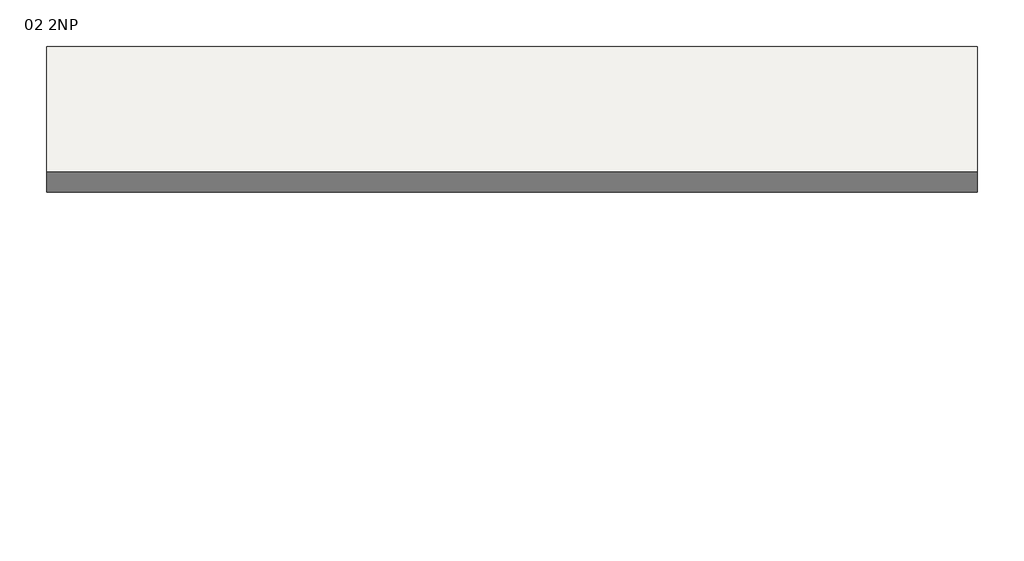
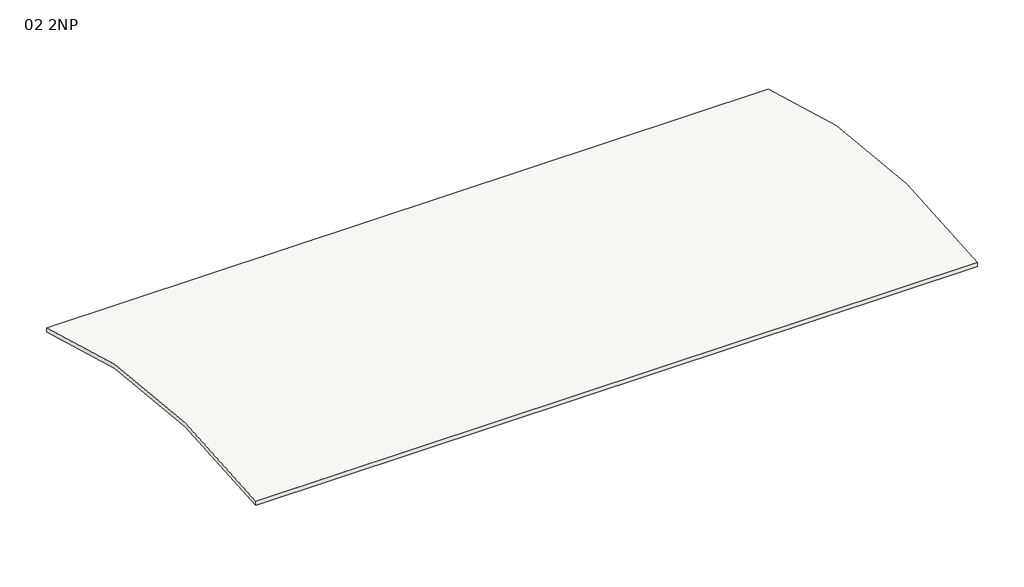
# One storey: 1 roof.
"""IFC4 building model written with IfcOpenShell, lengths in millimetres."""

import ifcopenshell
import ifcopenshell.guid

model = None  # the IFC model being written
_history = None  # IfcOwnerHistory: only IFC2X3 demands one
_inside = {}  # id of a spatial element -> (the spatial element, [elements in it])
_under = {}  # id of a project, library or spatial element -> (it, [spatial elements below it])
_declared = {}  # id of a project -> (the project, [libraries it declares])
_typed = {}  # id of a type object -> (the type object, [elements of that type])
_made_of = {}  # id of a material, layer set ... -> (it, [elements and type objects made of it])


def new_model(schema):
    """Start an empty IFC model of exactly this schema.

    Asked for "IFC4X3", IfcOpenShell would pick the latest addendum, in which some entities
    have other attributes; the version numbers below select the first issue.
    IFC2X3 requires an IfcOwnerHistory on every rooted entity: one is made here for all.
    """
    global model, _history
    if schema == "IFC4X3":
        model = ifcopenshell.file(schema_version=(4, 3, 0, 0))
    else:
        model = ifcopenshell.file(schema=schema)
    _inside.clear()
    _under.clear()
    _declared.clear()
    _typed.clear()
    _made_of.clear()
    _history = None
    if model.schema == "IFC2X3":
        org = make("IfcOrganization", Name="unknown")
        user = make(
            "IfcPersonAndOrganization",
            ThePerson=make("IfcPerson", FamilyName="unknown"),
            TheOrganization=org,
        )
        app = make(
            "IfcApplication",
            ApplicationDeveloper=org,
            Version="unknown",
            ApplicationFullName="unknown",
            ApplicationIdentifier="unknown",
        )
        _history = make(
            "IfcOwnerHistory",
            OwningUser=user,
            OwningApplication=app,
            ChangeAction="ADDED",
            CreationDate=0,
        )
    return model


def make(cls, **values):
    """One entity of the class cls with the attributes given. An attribute that is None is left unset."""
    return model.create_entity(
        cls, **{name: value for name, value in values.items() if value is not None}
    )


def rooted(cls, **values):
    """An entity with a GlobalId (a new one), such as an element, a storey or a relation."""
    return make(cls, GlobalId=ifcopenshell.guid.new(), OwnerHistory=_history, **values)


def si_unit(unit_type, name, prefix=None):
    """IfcSIUnit, for example si_unit("LENGTHUNIT", "METRE", prefix="MILLI")."""
    return make("IfcSIUnit", UnitType=unit_type, Prefix=prefix, Name=name)


def assignment(units):
    """IfcUnitAssignment: the units of a project."""
    return None if units is None else make("IfcUnitAssignment", Units=units)


def point(xyz):
    """IfcCartesianPoint."""
    return None if xyz is None else make("IfcCartesianPoint", Coordinates=xyz)


def direction(xyz):
    """IfcDirection."""
    return None if xyz is None else make("IfcDirection", DirectionRatios=xyz)


def frame(location, z_axis=None, x_axis=None):
    """IfcAxis2Placement3D, a coordinate frame: its origin and axes. An axis left out is left unset."""
    return make(
        "IfcAxis2Placement3D",
        Location=point(location),
        Axis=direction(z_axis),
        RefDirection=direction(x_axis),
    )


def frame_2d(location, x_axis=None):
    """IfcAxis2Placement2D, a coordinate frame in the plane: its origin and x axis."""
    return make(
        "IfcAxis2Placement2D", Location=point(location), RefDirection=direction(x_axis)
    )


def origin():
    """The frame at (0, 0, 0) with its axes left unset."""
    return frame((0.0, 0.0, 0.0))


def place(relative_to, where):
    """IfcLocalPlacement: puts the frame where relative to a parent placement (None: the world)."""
    return make(
        "IfcLocalPlacement", PlacementRelTo=relative_to, RelativePlacement=where
    )


def context(
    kind, dimensions, precision=None, world=None, true_north=None, identifier=None
):
    """IfcGeometricRepresentationContext, for example the 3D "Model" context."""
    return make(
        "IfcGeometricRepresentationContext",
        ContextIdentifier=identifier,
        ContextType=kind,
        CoordinateSpaceDimension=dimensions,
        Precision=precision,
        WorldCoordinateSystem=world,
        TrueNorth=true_north,
    )


def project(units=None, contexts=None):
    """IfcProject with its units and contexts."""
    return rooted(
        "IfcProject",
        Name="project",
        RepresentationContexts=contexts,
        UnitsInContext=assignment(units),
    )


def spatial(cls, under=None, at=None, **own):
    """A site, building, storey or space (cls), placed at a placement, below another one or the project."""
    s = rooted(cls, ObjectPlacement=at, **own)
    if under is not None:
        _under.setdefault(under.id(), (under, []))[1].append(s)
    return s


def polyline(points):
    """IfcPolyline through the points."""
    return make("IfcPolyline", Points=[point(p) for p in points])


def circle_curve(where, radius):
    """IfcCircle in the frame where."""
    return make("IfcCircle", Position=where, Radius=radius)


def trimmed(basis, trim1, trim2, sense, master):
    """IfcTrimmedCurve: the piece of a basis curve between two trims."""
    return make(
        "IfcTrimmedCurve",
        BasisCurve=basis,
        Trim1=trim1,
        Trim2=trim2,
        SenseAgreement=sense,
        MasterRepresentation=master,
    )


def segment(curve, same_sense, transition):
    """IfcCompositeCurveSegment."""
    return make(
        "IfcCompositeCurveSegment",
        Transition=transition,
        SameSense=same_sense,
        ParentCurve=curve,
    )


def composite_curve(segments, self_intersect=None):
    """IfcCompositeCurve: segments joined end to end."""
    return make("IfcCompositeCurve", Segments=segments, SelfIntersect=self_intersect)


def outline(outer, holes=None, kind="AREA"):
    """IfcArbitraryClosedProfileDef: a profile drawn as a closed curve; with holes, ...WithVoids."""
    if holes is None:
        return make("IfcArbitraryClosedProfileDef", ProfileType=kind, OuterCurve=outer)
    return make(
        "IfcArbitraryProfileDefWithVoids",
        ProfileType=kind,
        OuterCurve=outer,
        InnerCurves=holes,
    )


def extrude(swept, where, along, depth):
    """IfcExtrudedAreaSolid: the profile swept, set in the frame where, extruded along a direction by depth."""
    return make(
        "IfcExtrudedAreaSolid",
        SweptArea=swept,
        Position=where,
        ExtrudedDirection=direction(along),
        Depth=depth,
    )


def shape(context_of_items, identifier, shape_type, items):
    """IfcShapeRepresentation: the items that make up one representation, for example the "Body"."""
    return make(
        "IfcShapeRepresentation",
        ContextOfItems=context_of_items,
        RepresentationIdentifier=identifier,
        RepresentationType=shape_type,
        Items=items,
    )


def made_of(thing, what):
    """Note that an element or type object is made of a material, layer set ...; save() writes the relation."""
    if what is not None:
        _made_of.setdefault(what.id(), (what, []))[1].append(thing)
    return thing


def element(
    cls,
    number,
    at=None,
    inside=None,
    cuts=None,
    type_object=None,
    material=None,
    context=None,
    identifier="Body",
    shape_type=None,
    held_by="IfcProductDefinitionShape",
    body=None,
    shapes=None,
    **own,
):
    """One element of the class cls, such as IfcWall. Its Tag is "e" and its number.

    at: its placement. inside: the storey or other place that contains it. cuts: it is an
    opening in that element (IfcRelVoidsElement). A single representation is given by context,
    identifier, shape_type and body (its items); several are given by shapes. held_by: the class
    of the entity that holds the representations. save() writes the other relations.
    """
    e = rooted(cls, Tag="e%d" % number, ObjectPlacement=at, **own)
    if body is not None:
        shapes = [shape(context, identifier, shape_type, body)]
    if shapes is not None:
        e.Representation = make(held_by, Representations=shapes)
    if inside is not None:
        _inside.setdefault(inside.id(), (inside, []))[1].append(e)
    if cuts is not None:
        rooted(
            "IfcRelVoidsElement", RelatingBuildingElement=cuts, RelatedOpeningElement=e
        )
    if type_object is not None:
        _typed.setdefault(type_object.id(), (type_object, []))[1].append(e)
    return made_of(e, material)


def aggregate(whole, parts):
    """IfcRelAggregates: a whole, such as a stair, and the parts it consists of."""
    return rooted("IfcRelAggregates", RelatingObject=whole, RelatedObjects=parts)


def save(model, path):
    """Write the relations noted so far, then the file.

    IfcRelAggregates (storeys below a building ...), IfcRelContainedInSpatialStructure (elements
    in a storey), IfcRelDefinesByType, IfcRelAssociatesMaterial and IfcRelDeclares: one each for
    every whole, place, type object, material and project.
    """
    for whole, parts in _under.values():
        aggregate(whole, parts)
    for where, things in _inside.values():
        rooted(
            "IfcRelContainedInSpatialStructure",
            RelatedElements=things,
            RelatingStructure=where,
        )
    for kind, things in _typed.values():
        rooted("IfcRelDefinesByType", RelatedObjects=things, RelatingType=kind)
    for what, things in _made_of.values():
        rooted("IfcRelAssociatesMaterial", RelatedObjects=things, RelatingMaterial=what)
    for by, libraries in _declared.values():
        rooted("IfcRelDeclares", RelatingContext=by, RelatedDefinitions=libraries)
    model.write(path)


model = new_model("IFC4")

# Units and contexts
model_context = context("Model", 3, world=origin())
ifc_project = project(units=[si_unit("LENGTHUNIT", "METRE", prefix="MILLI")], contexts=[model_context])

# Site, building, storey
site = spatial("IfcSite", under=ifc_project)
building = spatial("IfcBuilding", under=site)
storey = spatial("IfcBuildingStorey", under=building, Name="02 2NP", Elevation=3000.0)

# Roof
placement = place(None, origin())
element("IfcRoof", 1, ObjectType="Střecha 150mm", at=placement, inside=storey, context=model_context, shape_type="SweptSolid", body=[
    extrude(outline(composite_curve([segment(trimmed(circle_curve(frame_2d((10047.4024556, -20941.700403)), 25793.5451367), [point((6000.0, 4532.3158504))], [point((19072.5704637, 3221.3563809))], False, "CARTESIAN"), True, "CONTINUOUS"), segment(polyline([(19072.5704637, 3221.3563809), (19072.5704637, 3061.1692088)]), True, "CONTINUOUS"), segment(trimmed(circle_curve(frame_2d((10047.4024556, -20941.700403)), 25643.5451367), [point((19072.5704637, 3061.1692088))], [point((6000.0, 4380.4231363))], True, "CARTESIAN"), True, "CONTINUOUS"), segment(polyline([(6000.0, 4380.4231363), (6000.0, 4532.3158504)]), True, "CONTINUOUS")], self_intersect=False)), frame((20544.798415, 0.0, 0.0), z_axis=(1.0, 0.0, 0.0), x_axis=(0.0, 1.0, 0.0)), (0.0, 0.0, 1.0), 26000.0),
])

save(model, "model.ifc")
